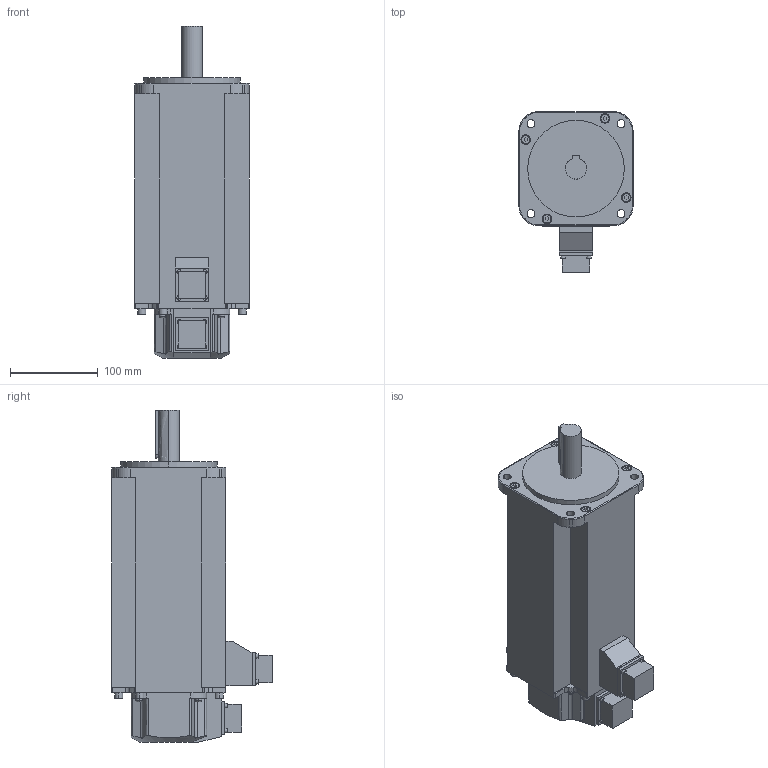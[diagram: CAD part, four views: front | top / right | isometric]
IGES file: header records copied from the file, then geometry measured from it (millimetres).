
Start section:  PTC IGES file: rsms_50atk3.igs
Global section: file name: rsms_50atk3.igs; native system: Pro/ENGINEER by Parametric Technology Corporation; preprocessor: 2004440; author: Administrator; organization: Unknown; date: 070829.195626; units: millimetre
Bounding box: 130 x 182.7 x 378 mm (x, y, z)
Volume: 4179349.7 mm3; surface area: 206104.6 mm2
Topology: 1 solids, 1 shells, 290 faces, 744 edges, 488 vertices
Faces by surface type: bspline 164, revolution 126
